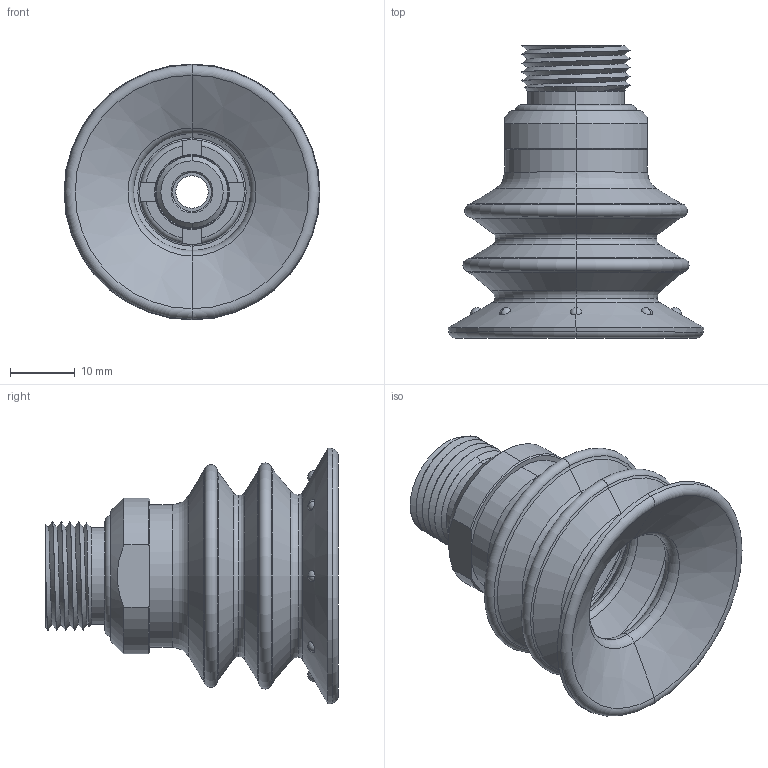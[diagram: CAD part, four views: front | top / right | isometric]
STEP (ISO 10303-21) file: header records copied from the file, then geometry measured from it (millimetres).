
FILE_DESCRIPTION (( 'STEP AP214' ), '1' );
FILE_NAME ('96C 40 38D-2 .step', '2024-12-16T07:11:20', ( '' ), ( '' ), 'SwSTEP 2.0', 'SolidWorks 2021', '' );
FILE_SCHEMA (( 'AUTOMOTIVE_DESIGN' ));
Length unit declared in the file: millimetre
Products named in the file (1): 96C 40 38D-2 
Bounding box: 39.4 x 45 x 39.4 mm (x, y, z)
Volume: 12517.6 mm3; surface area: 11461.5 mm2
Topology: 3 solids, 3 shells, 204 faces, 450 edges, 268 vertices
Faces by surface type: torus 66, cylinder 49, cone 37, plane 34, sphere 16, bspline 2
Entity records: 7782 total; most frequent: CARTESIAN_POINT 2806, DIRECTION 1071, ORIENTED_EDGE 900, AXIS2_PLACEMENT_3D 475, EDGE_CURVE 450, CIRCLE 272, VERTEX_POINT 268, EDGE_LOOP 226
